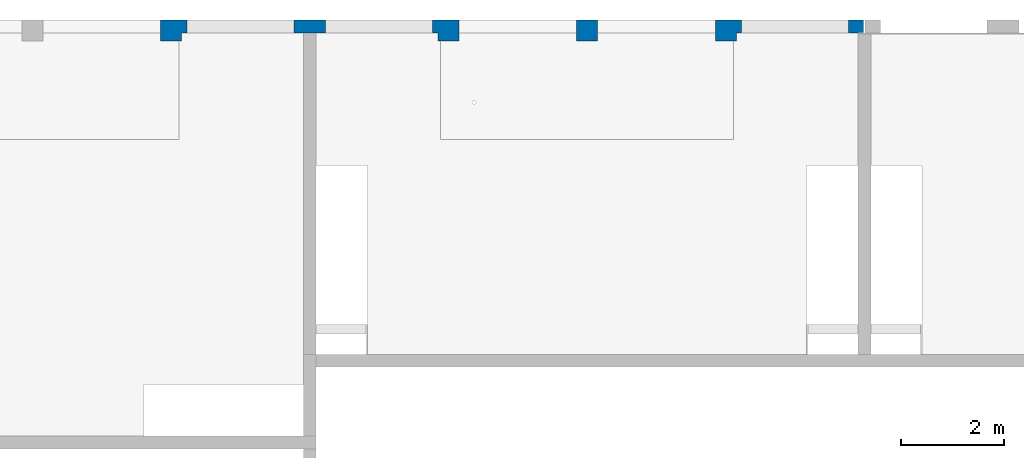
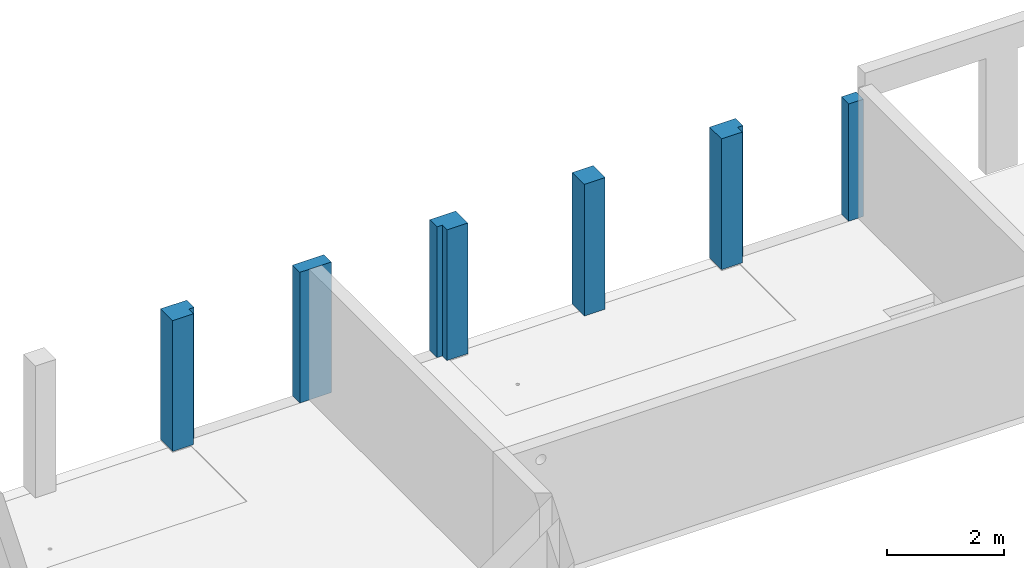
# One storey, part 8 of 22: 6 columns.
"""IFC2X3 building model written with IfcOpenShell, lengths in millimetres."""

from ifc_helpers import new_model, entity, si_unit, converted_unit, derived_unit, direction, frame, frame_2d, origin, origin_2d_with_axis, place, context, subcontext, project, spatial, polyline, rectangle, outline, extrude, source, transform, mapped, material, type_object, type_shapes, element, save


model = new_model("IFC2X3")

# Units and contexts
model_context = context("Model", 3, precision=0.01, world=origin(), true_north=direction((6.12303176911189e-17, 1.0)))
body_context = subcontext(model_context, "Body", "Model", "MODEL_VIEW")
ifc_project = project(units=[si_unit("LENGTHUNIT", "METRE", prefix="MILLI"), si_unit("AREAUNIT", "SQUARE_METRE"), si_unit("VOLUMEUNIT", "CUBIC_METRE"), converted_unit("PLANEANGLEUNIT", "DEGREE", entity("IfcRatioMeasure", 0.0174532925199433), si_unit("PLANEANGLEUNIT", "RADIAN"), dimensions=[0, 0, 0, 0, 0, 0, 0]), si_unit("MASSUNIT", "GRAM", prefix="KILO"), derived_unit("MASSDENSITYUNIT", [(si_unit("MASSUNIT", "GRAM", prefix="KILO"), 1), (si_unit("LENGTHUNIT", "METRE"), -3)]), si_unit("TIMEUNIT", "SECOND"), si_unit("FREQUENCYUNIT", "HERTZ"), si_unit("THERMODYNAMICTEMPERATUREUNIT", "DEGREE_CELSIUS"), derived_unit("THERMALTRANSMITTANCEUNIT", [(si_unit("MASSUNIT", "GRAM", prefix="KILO"), 1), (si_unit("THERMODYNAMICTEMPERATUREUNIT", "KELVIN"), -1), (si_unit("TIMEUNIT", "SECOND"), -3)]), derived_unit("VOLUMETRICFLOWRATEUNIT", [(si_unit("LENGTHUNIT", "METRE"), 3), (si_unit("TIMEUNIT", "SECOND"), -1)]), si_unit("ELECTRICCURRENTUNIT", "AMPERE"), si_unit("ELECTRICVOLTAGEUNIT", "VOLT"), si_unit("POWERUNIT", "WATT"), si_unit("FORCEUNIT", "NEWTON", prefix="KILO"), si_unit("ILLUMINANCEUNIT", "LUX"), si_unit("LUMINOUSFLUXUNIT", "LUMEN"), si_unit("LUMINOUSINTENSITYUNIT", "CANDELA"), derived_unit("USERDEFINED", [(si_unit("MASSUNIT", "GRAM", prefix="KILO"), -1), (si_unit("LENGTHUNIT", "METRE"), -2), (si_unit("TIMEUNIT", "SECOND"), 3), (si_unit("LUMINOUSFLUXUNIT", "LUMEN"), 1)]), derived_unit("LINEARVELOCITYUNIT", [(si_unit("LENGTHUNIT", "METRE"), 1), (si_unit("TIMEUNIT", "SECOND"), -1)]), si_unit("PRESSUREUNIT", "PASCAL"), derived_unit("USERDEFINED", [(si_unit("LENGTHUNIT", "METRE"), -2), (si_unit("MASSUNIT", "GRAM", prefix="KILO"), 1), (si_unit("TIMEUNIT", "SECOND"), -2)])], contexts=[model_context])

# Site, building, storey
site_placement = place(None, origin())
site = spatial("IfcSite", under=ifc_project, at=site_placement, Name="Default", CompositionType="ELEMENT")
building_placement = place(site_placement, origin())
building = spatial("IfcBuilding", under=site, at=building_placement, Name="niet gebruiken", CompositionType="ELEMENT")
storey_placement = place(building_placement, frame((0.0, 0.0, 9630.0)))
storey = spatial("IfcBuildingStorey", under=building, at=storey_placement, Name="03 derde verdieping", CompositionType="ELEMENT", Elevation=9630.00000000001)

# Columns
ifc_material = material(Name="NLRS_f2_beton ihwg")
column_type_1 = type_object("IfcColumnType", Name="620x250", PredefinedType="COLUMN", material=ifc_material)
shared_shape_1 = source(origin(), body_context, "Body", "SweptSolid", [
    extrude(rectangle(XDim=250.000000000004, YDim=619.999999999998, at=frame_2d((8.66151594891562e-12, 0.0), x_axis=(1.0, 0.0))), frame((97200.0, 53131.0, 9540.0), z_axis=(0.0, 0.0, 1.0), x_axis=(0.0, -1.0, 0.0)), (0.0, 0.0, 1.0), 2720.0),
])
type_shapes(column_type_1, [shared_shape_1])
column_1_placement = place(storey_placement, frame((0.0, 0.0, -9630.0)))
element("IfcColumn", 1, at=column_1_placement, inside=storey, type_object=column_type_1, material=ifc_material, Name="NLRS_28.11_SCO_TLB_beton kolom ihwg_gen:620x250", ObjectType="620x250", context=body_context, shape_type="MappedRepresentation", body=[
    mapped(shared_shape_1, transform((0.0, 0.0, 0.0), scale=1.0)),
])
column_type_2 = type_object("IfcColumnType", Name="515x410/105x160", PredefinedType="COLUMN", material=ifc_material)
shared_shape_2 = source(origin(), body_context, "Body", "SweptSolid", [
    extrude(outline(polyline([(-220.0, -308.333333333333), (190.0, -308.333333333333), (190.0, 101.666666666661), (30.0, 101.666666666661), (30.0, 206.666666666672), (-220.0, 206.666666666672), (-220.0, -308.333333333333)])), frame((94603.3333333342, 53036.0, 9540.0), z_axis=(0.0, 0.0, 1.0), x_axis=(0.0, -1.0, 0.0)), (0.0, 0.0, 1.0), 2720.0),
])
type_shapes(column_type_2, [shared_shape_2])
column_2_placement = place(storey_placement, frame((0.0, 0.0, -9630.0)))
element("IfcColumn", 2, at=column_2_placement, inside=storey, type_object=column_type_2, material=ifc_material, Name="NLRS_28.11_SCO_TLB_beton kolom ihwg enkele sponning_gen:515x410/105x160", ObjectType="515x410/105x160", context=body_context, shape_type="MappedRepresentation", body=[
    mapped(shared_shape_2, transform((0.0, 0.0, 0.0), scale=1.0)),
])
column_type_3 = type_object("IfcColumnType", Name="515x410/105x160", PredefinedType="COLUMN", material=ifc_material)
shared_shape_3 = source(origin(), body_context, "Body", "SweptSolid", [
    extrude(outline(polyline([(-220.0, -206.666666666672), (30.0, -206.666666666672), (30.0, -101.666666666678), (190.0, -101.666666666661), (190.0, 308.333333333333), (-220.0, 308.333333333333), (-220.0, -206.666666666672)])), frame((99796.6666666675, 53036.0, 9540.0), z_axis=(0.0, 0.0, 1.0), x_axis=(0.0, -1.0, 0.0)), (0.0, 0.0, 1.0), 2720.0),
])
type_shapes(column_type_3, [shared_shape_3])
column_3_placement = place(storey_placement, frame((0.0, 0.0, -9630.0)))
element("IfcColumn", 3, at=column_3_placement, inside=storey, type_object=column_type_3, material=ifc_material, Name="NLRS_28.11_SCO_TLB_beton kolom ihwg enkele sponning_gen:515x410/105x160", ObjectType="515x410/105x160", context=body_context, shape_type="MappedRepresentation", body=[
    mapped(shared_shape_3, transform((0.0, 0.0, 0.0), scale=1.0)),
])
column_type_4 = type_object("IfcColumnType", Name="410x410", PredefinedType="COLUMN", material=ifc_material)
shared_shape_4 = source(origin(), body_context, "Body", "SweptSolid", [
    extrude(rectangle(XDim=410.000000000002, YDim=409.999999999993, at=origin_2d_with_axis()), frame((102600.0, 53051.0, 9520.0), z_axis=(0.0, 0.0, 1.0), x_axis=(0.0, -1.0, 0.0)), (0.0, 0.0, 1.0), 2740.0),
])
type_shapes(column_type_4, [shared_shape_4])
column_4_placement = place(storey_placement, frame((0.0, 0.0, -9630.0)))
element("IfcColumn", 4, at=column_4_placement, inside=storey, type_object=column_type_4, material=ifc_material, Name="NLRS_28.11_SCO_TLB_beton kolom ihwg_gen:410x410", ObjectType="410x410", context=body_context, shape_type="MappedRepresentation", body=[
    mapped(shared_shape_4, transform((0.0, 0.0, 0.0), scale=1.0)),
])
column_type_5 = type_object("IfcColumnType", Name="515x410/105x160", PredefinedType="COLUMN", material=ifc_material)
shared_shape_5 = source(origin(), body_context, "Body", "SweptSolid", [
    extrude(outline(polyline([(-220.0, -308.333333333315), (190.0, -308.333333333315), (190.0, 101.666666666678), (30.0, 101.666666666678), (30.0, 206.666666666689), (-220.0, 206.666666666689), (-220.0, -308.333333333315)])), frame((105403.333333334, 53036.0, 9540.0), z_axis=(0.0, 0.0, 1.0), x_axis=(0.0, -1.0, 0.0)), (0.0, 0.0, 1.0), 2720.0),
])
type_shapes(column_type_5, [shared_shape_5])
column_5_placement = place(storey_placement, frame((0.0, 0.0, -9630.0)))
element("IfcColumn", 5, at=column_5_placement, inside=storey, type_object=column_type_5, material=ifc_material, Name="NLRS_28.11_SCO_TLB_beton kolom ihwg enkele sponning_gen:515x410/105x160", ObjectType="515x410/105x160", context=body_context, shape_type="MappedRepresentation", body=[
    mapped(shared_shape_5, transform((0.0, 0.0, 0.0), scale=1.0)),
])
column_type_6 = type_object("IfcColumnType", Name="290x250", PredefinedType="COLUMN", material=ifc_material)
shared_shape_6 = source(origin(), body_context, "Body", "SweptSolid", [
    extrude(rectangle(XDim=250.000000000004, YDim=290.000000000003, at=frame_2d((-8.66151594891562e-12, 0.0), x_axis=(1.0, 0.0))), frame((107835.0, 53131.0, 9540.0), z_axis=(0.0, 0.0, 1.0), x_axis=(0.0, -1.0, 0.0)), (0.0, 0.0, 1.0), 2440.0),
])
type_shapes(column_type_6, [shared_shape_6])
column_6_placement = place(storey_placement, frame((0.0, 0.0, -9630.0)))
element("IfcColumn", 6, at=column_6_placement, inside=storey, type_object=column_type_6, material=ifc_material, Name="NLRS_28.11_SCO_TLB_beton kolom ihwg_gen:290x250", ObjectType="290x250", context=body_context, shape_type="MappedRepresentation", body=[
    mapped(shared_shape_6, transform((0.0, 0.0, 0.0), scale=1.0)),
])

save(model, "model.ifc")
